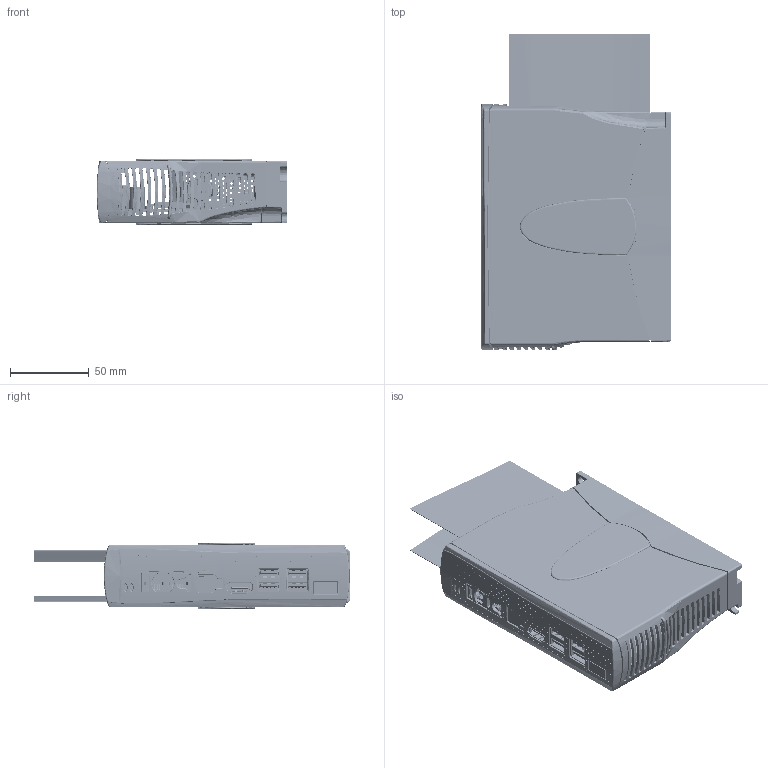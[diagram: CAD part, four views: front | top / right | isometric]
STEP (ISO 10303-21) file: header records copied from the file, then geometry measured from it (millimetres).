
FILE_DESCRIPTION (( 'STEP AP214' ), '1' );
FILE_NAME ('TRO-04 COMPLETE ASSEMBLY 180518.STEP', '2018-05-18T13:24:04', ( '' ), ( '' ), 'SwSTEP 2.0', 'SolidWorks 2016', '' );
FILE_SCHEMA (( 'AUTOMOTIVE_DESIGN' ));
Length unit declared in the file: millimetre
Products named in the file (184): C33; SW3dPS-0805_SMD_Resistor; 843170624; R9; J7; Extruded_18; Extruded_28; TRO-04 FRONT MOULDING HOLE PLUG 090813; c-6116353-4-d-3d; User_Library-CAPC_0402; C32; JP9; Extruded_13; R10; 815196288; User_Library-RES_0402; 815197648; TRO-04 TOP CONNECTOR SURROUND 300513; J8; User_Library-CAPC_0402_CAPC_0402_Body_1; C31; 815202544; J5; R11; Extruded_7; User_Library-RES_0402_RES_0402_Body_1; Extruded_27; TRO-04 WINDOW 300513; 685119134923; User_Library-CAPC_0402_CAPC_0402_Lead_1; C30; Extruded; 61400416021; R14; 815196152; User_Library-RES_0402_RES_0402_Lead_1; L11; TRO-04 REAR CASE 260913; Pin2; C22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
Assembly tree (310 placements, depth 5):
  TRO-04 COMPLETE ASSEMBLY 180518
    TRO-04 CASTING 300413
    TRO-04 REAR CASE 260913
    TRO-04 WINDOW 300513
    TRO-04 TOP CONNECTOR SURROUND 300513
    TRO-04 FRONT MOULDING HOLE PLUG 090813
    TRO-01 M5 SOCKET CAP SCREWS  x2
    TRO-04 DISPLAY PCB ASSEMBLY- 2
      TRO-01 DISPLAY PCB 251012
      TRO-04 DISPLAY HOLDER 251012
      TRO-01 DISPLAY BACKLIGHT
      TRO-01 DISPLAY LCD 251012
      TRO-01 DISPLAY LED 1 251012
      TRO-01 DISPLAY LED 2 251012
      TRO-01 DISPLAY ZEBRA STRIP 251012
    TRO-04 SD CARD SLOT COVER 260913
    TRO-04 REAR CASE GRAPHIC INFIL PANEL  x2
    TRO-04 FRONT MOULDING - PC-MAT 160516
    TRO-04 TOP CONNECTOR SURROUND - BATTERY 160516
    TRO-04 BATTERY
    PC-MCAT_MECH_B
      Board
      JP9
        815202544
          Extruded
      R5
        SW3dPS-0805_SMD_Resistor
        815197512
          Extruded_2
      D4
        User_Library-sot-23-6-2(3)
        815197376
          Extruded_3
      MT4
        9774025151
      J7
        SM3ZS067U410AM_v01_JAE_Proprietary
        815198192
          Extruded_4
        843173344
          Extruded_5
        815196152
          Extruded_6
        815196288
          Extruded_7
      D4_2
        817223920
          Cylinder
        815196016
          Extruded_8
        815195880
          Extruded_9
        843179056  x2
          Extruded_10
      D3
        817223920
          Cylinder
        815195744
          Extruded_11
        815195880
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Bounding box: 121.14 x 201.74 x 41.88 mm (x, y, z)
Volume: 244694.7 mm3; surface area: 248929.7 mm2
Topology: 233 solids, 237 shells, 15985 faces, 43289 edges, 27900 vertices
Faces by surface type: plane 8037, cylinder 4253, bspline 3361, cone 158, torus 139, sphere 37
Entity records: 576117 total; most frequent: CARTESIAN_POINT 245369, ORIENTED_EDGE 66698, DIRECTION 50173, EDGE_CURVE 33353, VERTEX_POINT 21601, LINE 19145, VECTOR 19145, AXIS2_PLACEMENT_3D 15514
